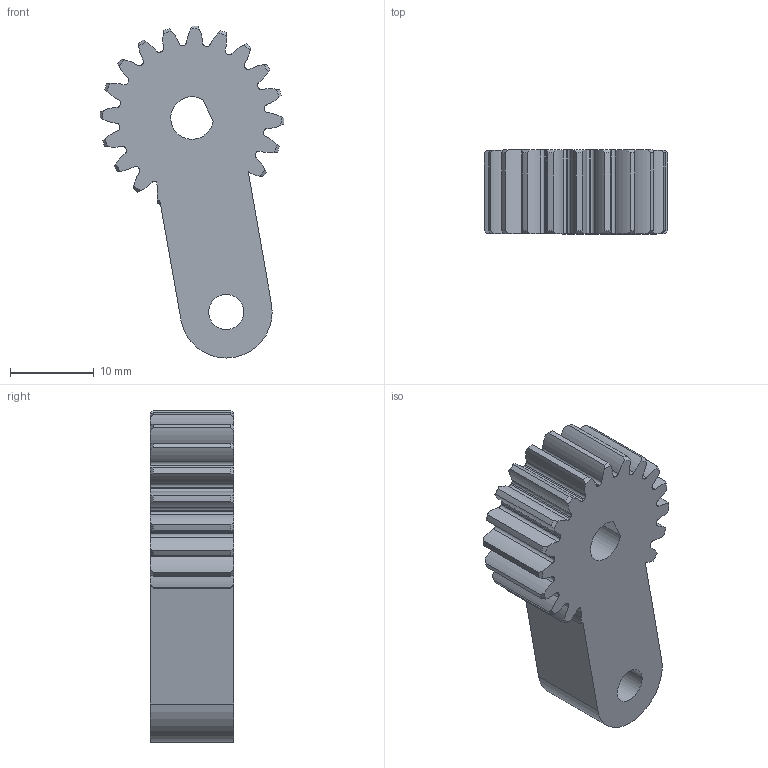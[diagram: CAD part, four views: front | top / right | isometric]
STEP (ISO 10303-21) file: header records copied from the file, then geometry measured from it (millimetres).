
FILE_DESCRIPTION(/* description */ (''),/* implementation_level */ '2;1');
FILE_NAME(/* name */ 'link Nema.step',/* time_stamp */ '2026-03-04T15:16:55+01:00',/* author */ (''),/* organization */ (''),/* preprocessor_version */ 'ST-DEVELOPER v20.1',/* originating_system */ 'Autodesk Translation Framework v14.24.0.0',/* authorisation */ '');
FILE_SCHEMA (('AUTOMOTIVE_DESIGN { 1 0 10303 214 3 1 1 }'));
Length unit declared in the file: millimetre
Products named in the file (1): link Nema
Bounding box: 22 x 10 x 39.71 mm (x, y, z)
Volume: 4802.6 mm3; surface area: 2713.4 mm2
Topology: 1 solids, 1 shells, 140 faces, 414 edges, 276 vertices
Faces by surface type: cylinder 84, cone 34, plane 22
Full cylindrical faces by diameter (mm): 4.2 x1
Entity records: 4885 total; most frequent: CARTESIAN_POINT 1033, DIRECTION 830, ORIENTED_EDGE 828, EDGE_CURVE 414, AXIS2_PLACEMENT_3D 343, VERTEX_POINT 276, CIRCLE 202, EDGE_LOOP 144
